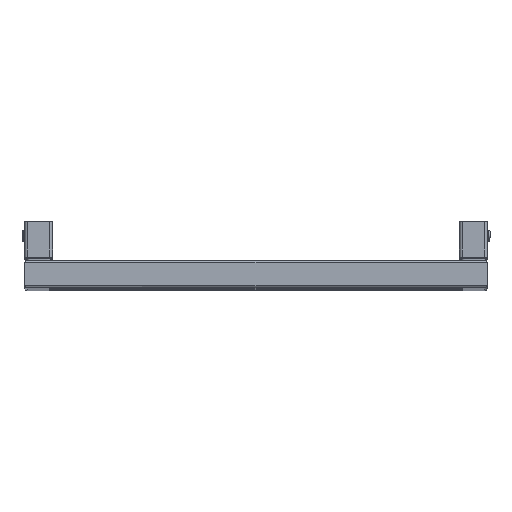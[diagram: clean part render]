
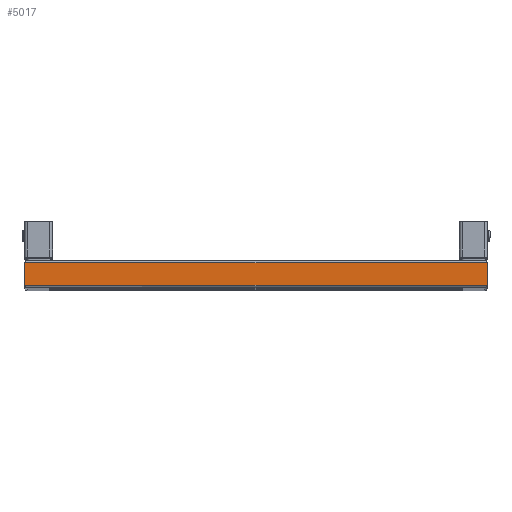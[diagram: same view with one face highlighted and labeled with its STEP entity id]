
A CAD part, top view. The second image highlights one B-rep face of the part: STEP entity #5017.
In plain terms, the highlighted planar face has unit normal (0, 0, 1).
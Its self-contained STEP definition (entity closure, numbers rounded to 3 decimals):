
#4796=CARTESIAN_POINT('',(250.,27.0,1780.0));
#4797=VERTEX_POINT('',#4796);
#4827=CARTESIAN_POINT('',(-250.,27.0,1780.0));
#4828=VERTEX_POINT('',#4827);
#4836=CARTESIAN_POINT('',(-250.,27.0,1780.0));
#4837=DIRECTION('',(1.0,0.0,0.0));
#4838=VECTOR('',#4837,500.);
#4839=LINE('',#4836,#4838);
#4840=EDGE_CURVE('',#4828,#4797,#4839,.T.);
#4887=CARTESIAN_POINT('',(250.,3.0,1780.0));
#4888=VERTEX_POINT('',#4887);
#4889=CARTESIAN_POINT('',(250.,3.0,1780.0));
#4890=DIRECTION('',(0.0,1.0,0.0));
#4891=VECTOR('',#4890,24.0);
#4892=LINE('',#4889,#4891);
#4893=EDGE_CURVE('',#4888,#4797,#4892,.T.);
#4910=CARTESIAN_POINT('',(-250.,3.0,1780.0));
#4911=VERTEX_POINT('',#4910);
#4912=CARTESIAN_POINT('',(250.,3.0,1780.0));
#4913=DIRECTION('',(-1.0,0.0,0.0));
#4914=VECTOR('',#4913,500.);
#4915=LINE('',#4912,#4914);
#4916=EDGE_CURVE('',#4888,#4911,#4915,.T.);
#4997=CARTESIAN_POINT('',(-250.,3.0,1780.0));
#4998=DIRECTION('',(0.0,1.0,0.0));
#4999=VECTOR('',#4998,24.0);
#5000=LINE('',#4997,#4999);
#5001=EDGE_CURVE('',#4911,#4828,#5000,.T.);
#5006=CARTESIAN_POINT('',(250.,0.0,1780.0));
#5007=DIRECTION('',(0.0,0.0,1.0));
#5008=DIRECTION('',(1.0,0.0,0.0));
#5009=AXIS2_PLACEMENT_3D('',#5006,#5007,#5008);
#5010=PLANE('',#5009);
#5011=ORIENTED_EDGE('',*,*,#4840,.F.);
#5012=ORIENTED_EDGE('',*,*,#5001,.F.);
#5013=ORIENTED_EDGE('',*,*,#4916,.F.);
#5014=ORIENTED_EDGE('',*,*,#4893,.T.);
#5015=EDGE_LOOP('',(#5011,#5012,#5013,#5014));
#5016=FACE_OUTER_BOUND('',#5015,.T.);
#5017=ADVANCED_FACE('',(#5016),#5010,.T.);
